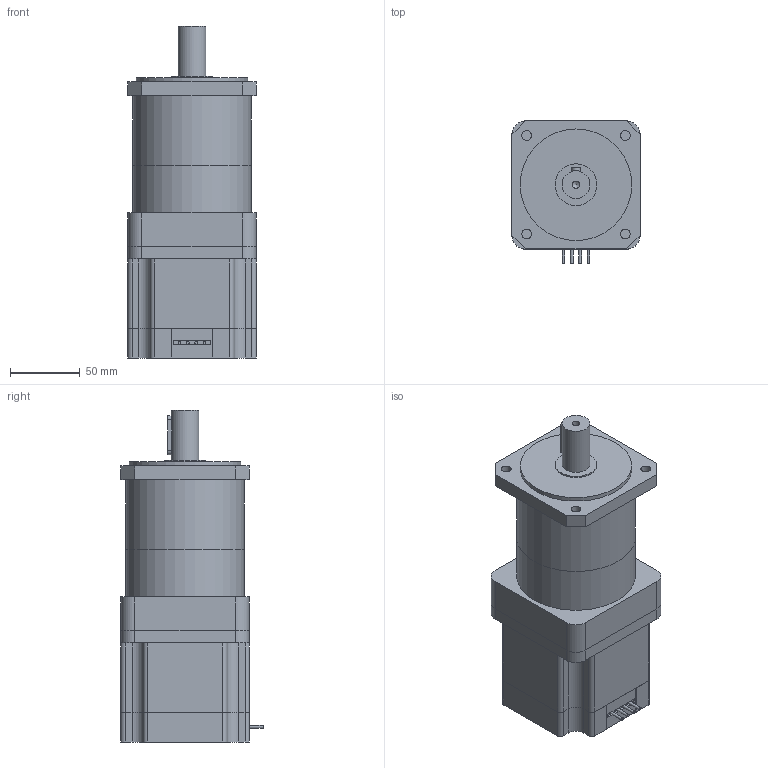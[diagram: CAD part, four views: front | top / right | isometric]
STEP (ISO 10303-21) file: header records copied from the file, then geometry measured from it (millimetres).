
FILE_DESCRIPTION(/* description */ (''),/* implementation_level */ '2;1');
FILE_NAME(/* name */ '86PG008-D44-0480.stp',/* time_stamp */ '2018-08-27T08:51:10+08:00',/* author */ (''),/* organization */ (''),/* preprocessor_version */ 'ST-DEVELOPER v11',/* originating_system */ 'SIEMENS UGS NX 6.0',/* authorisation */ '');
FILE_SCHEMA (('CONFIG_CONTROL_DESIGN'));
Length unit declared in the file: millimetre
Products named in the file (1): 86PG003-D44-0480
Bounding box: 92 x 102 x 238 mm (x, y, z)
Volume: 1392305.1 mm3; surface area: 157728.8 mm2
Topology: 6 solids, 6 shells, 121 faces, 301 edges, 202 vertices
Faces by surface type: plane 72, cylinder 48, cone 1
Full cylindrical faces by diameter (mm): 2 x4, 5.3 x1, 7 x4, 20 x1, 30 x1, 80 x1, 85 x2
Entity records: 3644 total; most frequent: CARTESIAN_POINT 659, DIRECTION 616, ORIENTED_EDGE 560, EDGE_CURVE 280, AXIS2_PLACEMENT_3D 216, VERTEX_POINT 197, LINE 184, VECTOR 184
